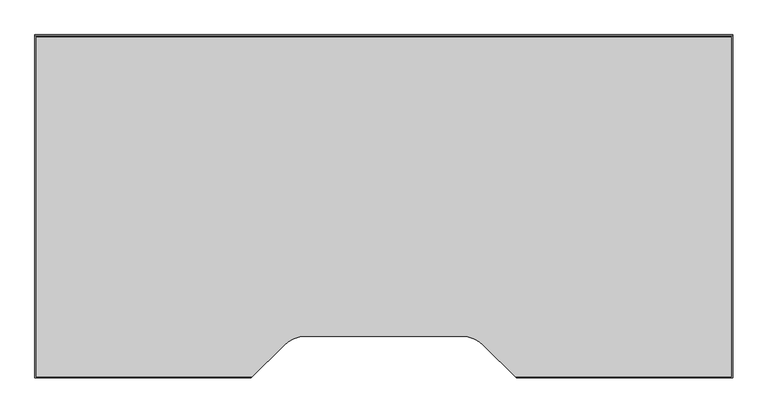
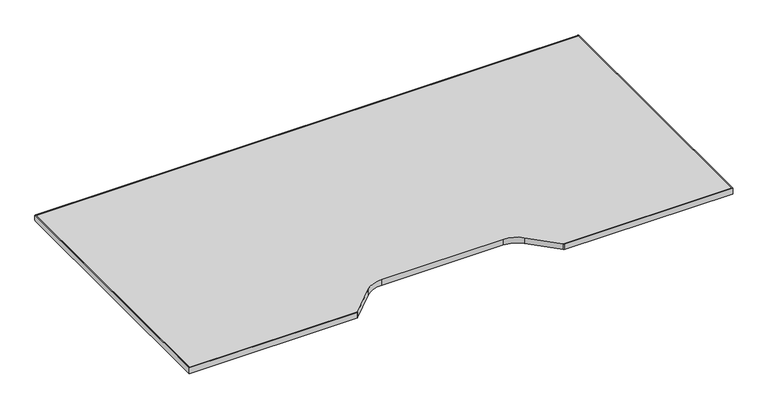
"""IFC4 building model written with IfcOpenShell, lengths in millimetres: furniture geometry, Steelcase Turnstone - Bivi - Table - Table Top : 24D x 48W."""

from ifc_helpers import new_model, si_unit, point, frame, frame_2d, origin, place, context, project, spatial, polyline, circle_curve, trimmed, segment, composite_curve, outline, extrude, source, transform, mapped, element, save
from ifc_brep_helpers import plane_surface, cylinder_surface, advanced_brep


def furniture_8338bea9(model_context):
    return source(origin(), model_context, "Body", "SolidModel", [
        advanced_brep(
        [(514.3499939, -727.0750061, 723.566625), (514.3499939, -727.0750061, 710.485625), (515.3499939, -726.0750061, 710.485625), (515.3499939, -726.0750061, 723.566625), (957.8500067, -726.0750061, 723.566625), (957.8500067, -726.0750061, 710.485625), (958.8500061, -727.0750061, 710.485625), (958.8500061, -727.0750061, 723.566625), (1320.8, -727.0750061, 723.566625), (1320.8, -154.3050061, 723.566625), (152.4, -154.3050061, 723.566625), (152.4, -727.0750061, 723.566625), (153.4, -726.0750061, 723.566625), (153.4, -155.2730061, 723.566625), (1319.8, -155.2730061, 723.566625), (1319.8, -726.0750061, 723.566625), (1319.8, -155.2730061, 710.485625), (1319.8, -726.0750061, 710.485625), (153.4, -155.2730061, 710.485625), (153.4, -726.0750061, 710.485625), (152.4, -727.0750061, 710.485625), (152.4, -154.3050061, 710.485625), (1320.8, -154.3050061, 710.485625), (1320.8, -727.0750061, 710.485625), (1320.8, -152.2730061, 712.517625), (1320.8, -152.2730061, 721.534625), (152.4, -152.2730061, 721.534625), (152.4, -152.2730061, 712.517625)],
        [
            (0, 1),
            (1, 2),
            (2, 3),
            (3, 0),
            (4, 5),
            (5, 6),
            (6, 7),
            (7, 4),
            (8, 9),
            (9, 10),
            (10, 11),
            (11, 0),
            (3, 12),
            (12, 13),
            (13, 14),
            (14, 15),
            (15, 4),
            (7, 8),
            (14, 16),
            (16, 17),
            (17, 15),
            (16, 18),
            (18, 19),
            (19, 2),
            (1, 20),
            (20, 21),
            (21, 22),
            (22, 23),
            (23, 6),
            (5, 17),
            (8, 23),
            (22, 24, circle_curve(frame((1320.8, -154.3050061, 712.517625), z_axis=(1.0, 0.0, 0.0), x_axis=(0.0, -1.0, 0.0)), 2.032)),
            (24, 25),
            (25, 9, circle_curve(frame((1320.8, -154.3050061, 721.534625), z_axis=(1.0, 0.0, 0.0), x_axis=(0.0, -1.0, 0.0)), 2.032)),
            (19, 12),
            (11, 20),
            (18, 13),
            (10, 26, circle_curve(frame((152.4, -154.3050061, 721.534625), z_axis=(-1.0, 0.0, 0.0), x_axis=(0.0, -1.0, 0.0)), 2.032)),
            (26, 27),
            (27, 21, circle_curve(frame((152.4, -154.3050061, 712.517625), z_axis=(-1.0, 0.0, 0.0), x_axis=(0.0, -1.0, 0.0)), 2.032)),
            (27, 24),
            (26, 25),
        ],
        [
            plane_surface(frame((514.3499939, -727.0750061, 724.4389999), z_axis=(0.7071067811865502, -0.7071067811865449, 0.0), x_axis=(0.0, 0.0, -1.0))),
            plane_surface(frame((904.6973766, -672.9223408, 724.4389999), z_axis=(-0.7071070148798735, -0.7071065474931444, 0.0), x_axis=(0.0, 0.0, -1.0))),
            plane_surface(frame((1320.8, -155.2730061, 723.566625), z_axis=(0.0, 0.0, 1.0), x_axis=(0.0, -1.0, 0.0))),
            plane_surface(frame((1319.8, -155.2730061, 723.566625), z_axis=(-1.0, 0.0, 0.0), x_axis=(0.0, -1.0, 0.0))),
            plane_surface(frame((1319.8, -155.2730061, 710.485625), z_axis=(0.0, 0.0, -1.0), x_axis=(0.0, -1.0, 0.0))),
            plane_surface(frame((1320.8, -155.2730061, 710.485625), z_axis=(1.0, 0.0, 0.0), x_axis=(0.0, -1.0, 0.0))),
            plane_surface(frame((1319.8, -726.0750061, 723.566625), z_axis=(0.0, 1.0, 0.0), x_axis=(-1.0, 0.0, 0.0))),
            plane_surface(frame((1320.8, -727.0750061, 710.485625), z_axis=(0.0, -1.0, 0.0), x_axis=(-1.0, 0.0, 0.0))),
            plane_surface(frame((153.4, -726.0750061, 723.566625), z_axis=(1.0, 0.0, 0.0), x_axis=(0.0, 1.0, 0.0))),
            plane_surface(frame((152.4, -727.0750061, 710.485625), z_axis=(-1.0, 0.0, 0.0), x_axis=(0.0, 1.0, 0.0))),
            cylinder_surface(frame((152.4, -154.3050061, 712.517625), z_axis=(-1.0, 0.0, 0.0), x_axis=(0.0, -1.0, 0.0)), 2.032),
            plane_surface(frame((152.4, -152.2730061, 712.517625), z_axis=(0.0, 1.0, 0.0), x_axis=(1.0, 0.0, 0.0))),
            cylinder_surface(frame((152.4, -154.3050061, 721.534625), z_axis=(-1.0, 0.0, 0.0), x_axis=(0.0, -1.0, 0.0)), 2.032),
            plane_surface(frame((152.4, -155.2730061, 723.566625), z_axis=(0.0, -1.0, 0.0), x_axis=(1.0, 0.0, 0.0))),
        ],
        [
            (0, [[1, 2, 3, 4]]),
            (1, [[5, 6, 7, 8]]),
            (2, [[9, 10, 11, 12, -4, 13, 14, 15, 16, 17, -8, 18]]),
            (3, [[19, 20, 21, -16]]),
            (4, [[22, 23, 24, -2, 25, 26, 27, 28, 29, -6, 30, -20]]),
            (5, [[31, -28, 32, 33, 34, -9]]),
            (6, [[-13, -3, -24, 35]]),
            (6, [[-30, -5, -17, -21]]),
            (7, [[-18, -7, -29, -31]]),
            (7, [[-25, -1, -12, 36]]),
            (8, [[-35, -23, 37, -14]]),
            (9, [[38, 39, 40, -26, -36, -11]]),
            (10, [[41, -32, -27, -40]]),
            (11, [[42, -33, -41, -39]]),
            (12, [[-10, -34, -42, -38]]),
            (13, [[-19, -15, -37, -22]]),
        ],
    ),
        extrude(outline(composite_curve([segment(polyline([(1319.8, -726.0750061), (957.8500067, -726.0750061), (904.6973766, -672.9223408)]), True, "CONTINUOUS"), segment(trimmed(circle_curve(frame_2d((866.8006832, -710.8190091)), 53.594), [point((904.6973766, -672.9223408))], [point((866.8006832, -657.2250091))], True, "CARTESIAN"), True, "CONTINUOUS"), segment(polyline([(866.8006832, -657.2250091), (606.3859497, -657.2250091)]), True, "CONTINUOUS"), segment(trimmed(circle_curve(frame_2d((606.3859497, -710.7866517)), 53.5616426), [point((606.3859497, -657.2250091))], [point((568.512149, -672.912851))], True, "CARTESIAN"), True, "CONTINUOUS"), segment(polyline([(568.512149, -672.912851), (515.3499939, -726.0750061), (153.4, -726.0750061), (153.4, -155.2730061), (1319.8, -155.2730061), (1319.8, -726.0750061)]), True, "CONTINUOUS")], self_intersect=False)), frame((0.0, 0.0, 710.485625), z_axis=(0.0, 0.0, 1.0), x_axis=(1.0, 0.0, 0.0)), (0.0, 0.0, 1.0), 13.081),
    ])


if __name__ == "__main__":
    model = new_model("IFC4")
    model_context = context("Model", 3, world=origin())
    ifc_project = project(units=[si_unit("LENGTHUNIT", "METRE", prefix="MILLI")], contexts=[model_context])
    site = spatial("IfcSite", under=ifc_project)
    building = spatial("IfcBuilding", under=site)
    placement = place(None, origin())
    furniture_shape = furniture_8338bea9(model_context)
    element("IfcFurniture", 1, ObjectType="Steelcase Turnstone - Bivi - Table - Table Top : 24D x 48W", at=placement, inside=building, context=model_context, shape_type="MappedRepresentation", body=[
        mapped(furniture_shape, transform((0.0, 0.0, 0.0), x_axis=(1.0, 0.0, 0.0), y_axis=(0.0, 1.0, 0.0), z_axis=(0.0, 0.0, 1.0))),
    ])
    save(model, "model.ifc")
